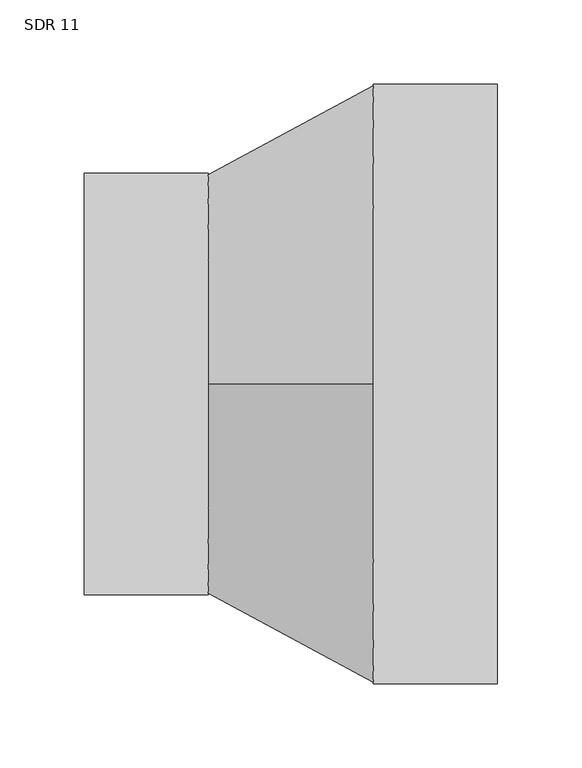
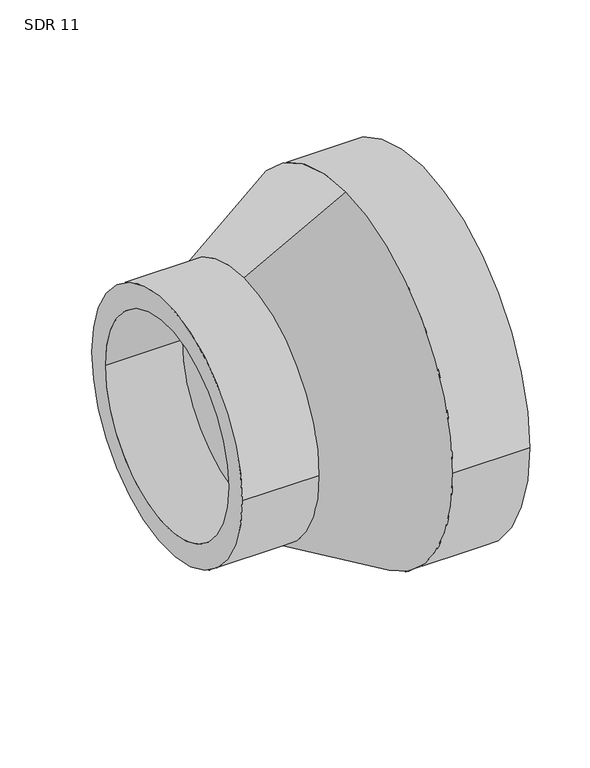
"""IFC4 building model written with IfcOpenShell, lengths in millimetres: pipe fitting geometry, Aquatherm - Reducing Coupling Combined - METRIC : SDR 11."""

from ifc_helpers import new_model, si_unit, frame, origin, place, context, project, spatial, polyline, circle_curve, source, transform, mapped, element, save
from ifc_brep_helpers import plane_surface, cylinder_surface, revolved_surface, advanced_brep


def sdr_11_0740749e(model_context):
    return source(origin(), model_context, "Body", "AdvancedBrep", [
        advanced_brep(
        [(-122.555, -124.968, 0.0), (-122.555, 124.968, 0.0), (-122.555, -102.2465455, 0.0), (-122.555, 102.2465455, 0.0), (-49.022, 102.2465455, 0.0), (-49.022, 0.0, 102.2465455), (-49.022, -102.2465455, 0.0), (-49.022, 0.0, -102.2465455), (-49.022, 124.968, 0.0), (-49.022, 0.0, -124.968), (-49.022, -124.968, 0.0), (-49.022, 0.0, 124.968), (122.555, -177.8, 0.0), (122.555, 177.8, 0.0), (122.555, -145.4727273, 0.0), (122.555, 145.4727273, 0.0), (49.022, -177.8, 0.0), (49.022, 0.0, -177.8), (49.022, 177.8, 0.0), (49.022, 0.0, 177.8), (49.022, -145.4727273, 0.0), (49.022, 0.0, 145.4727273), (49.022, 145.4727273, 0.0), (49.022, 0.0, -145.4727273)],
        [
            (0, 1, circle_curve(frame((-122.555, 0.0, 0.0), z_axis=(-1.0, 0.0, 0.0), x_axis=(0.0, 1.0, 0.0)), 124.968)),
            (1, 0, circle_curve(frame((-122.555, 0.0, 0.0), z_axis=(-1.0, 0.0, 0.0), x_axis=(0.0, 1.0, 0.0)), 124.968)),
            (2, 3, circle_curve(frame((-122.555, 0.0, 0.0), z_axis=(1.0, 0.0, 0.0), x_axis=(0.0, 1.0, 0.0)), 102.2465455)),
            (3, 2, circle_curve(frame((-122.555, 0.0, 0.0), z_axis=(1.0, 0.0, 0.0), x_axis=(0.0, 1.0, 0.0)), 102.2465455)),
            (3, 4),
            (4, 5, circle_curve(frame((-49.022, 0.0, 0.0), z_axis=(1.0, 0.0, 0.0), x_axis=(0.0, 1.0, 0.0)), 102.2465455)),
            (5, 6, circle_curve(frame((-49.022, 0.0, 0.0), z_axis=(1.0, 0.0, 0.0), x_axis=(0.0, 1.0, 0.0)), 102.2465455)),
            (6, 2),
            (6, 7, circle_curve(frame((-49.022, 0.0, 0.0), z_axis=(1.0, 0.0, 0.0), x_axis=(0.0, 1.0, 0.0)), 102.2465455)),
            (7, 4, circle_curve(frame((-49.022, 0.0, 0.0), z_axis=(1.0, 0.0, 0.0), x_axis=(0.0, 1.0, 0.0)), 102.2465455)),
            (1, 8),
            (8, 9, circle_curve(frame((-49.022, 0.0, 0.0), z_axis=(-1.0, 0.0, 0.0), x_axis=(0.0, 1.0, 0.0)), 124.968)),
            (9, 10, circle_curve(frame((-49.022, 0.0, 0.0), z_axis=(-1.0, 0.0, 0.0), x_axis=(0.0, 1.0, 0.0)), 124.968)),
            (10, 0),
            (10, 11, circle_curve(frame((-49.022, 0.0, 0.0), z_axis=(-1.0, 0.0, 0.0), x_axis=(0.0, 1.0, 0.0)), 124.968)),
            (11, 8, circle_curve(frame((-49.022, 0.0, 0.0), z_axis=(-1.0, 0.0, 0.0), x_axis=(0.0, 1.0, 0.0)), 124.968)),
            (12, 13, circle_curve(frame((122.555, 0.0, 0.0), z_axis=(1.0, 0.0, 0.0), x_axis=(0.0, 1.0, 0.0)), 177.8)),
            (13, 12, circle_curve(frame((122.555, 0.0, 0.0), z_axis=(1.0, 0.0, 0.0), x_axis=(0.0, 1.0, 0.0)), 177.8)),
            (14, 15, circle_curve(frame((122.555, 0.0, 0.0), z_axis=(-1.0, 0.0, 0.0), x_axis=(0.0, 1.0, 0.0)), 145.4727273)),
            (15, 14, circle_curve(frame((122.555, 0.0, 0.0), z_axis=(-1.0, 0.0, 0.0), x_axis=(0.0, 1.0, 0.0)), 145.4727273)),
            (12, 16),
            (16, 17, circle_curve(frame((49.022, 0.0, 0.0), z_axis=(1.0, 0.0, 0.0), x_axis=(0.0, 1.0, 0.0)), 177.8)),
            (17, 18, circle_curve(frame((49.022, 0.0, 0.0), z_axis=(1.0, 0.0, 0.0), x_axis=(0.0, 1.0, 0.0)), 177.8)),
            (18, 13),
            (18, 19, circle_curve(frame((49.022, 0.0, 0.0), z_axis=(1.0, 0.0, 0.0), x_axis=(0.0, 1.0, 0.0)), 177.8)),
            (19, 16, circle_curve(frame((49.022, 0.0, 0.0), z_axis=(1.0, 0.0, 0.0), x_axis=(0.0, 1.0, 0.0)), 177.8)),
            (14, 20),
            (20, 21, circle_curve(frame((49.022, 0.0, 0.0), z_axis=(-1.0, 0.0, 0.0), x_axis=(0.0, 1.0, 0.0)), 145.4727273)),
            (21, 22, circle_curve(frame((49.022, 0.0, 0.0), z_axis=(-1.0, 0.0, 0.0), x_axis=(0.0, 1.0, 0.0)), 145.4727273)),
            (22, 15),
            (22, 23, circle_curve(frame((49.022, 0.0, 0.0), z_axis=(-1.0, 0.0, 0.0), x_axis=(0.0, 1.0, 0.0)), 145.4727273)),
            (23, 20, circle_curve(frame((49.022, 0.0, 0.0), z_axis=(-1.0, 0.0, 0.0), x_axis=(0.0, 1.0, 0.0)), 145.4727273)),
            (11, 19),
            (17, 9),
            (21, 5),
            (7, 23),
        ],
        [
            plane_surface(frame((-122.555, 102.2465455, 0.0), z_axis=(-1.0, 0.0, 0.0), x_axis=(0.0, 0.0, 1.0))),
            revolved_surface(polyline([(-122.555, 102.2465455, 0.0), (-49.02199999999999, 102.2465455, 0.0)]), (-122.555, 0.0, 0.0), (-1.0, 0.0, 0.0)),
            cylinder_surface(frame((0.0, 0.0, 0.0), z_axis=(1.0, 0.0, 0.0), x_axis=(0.0, 1.0, 0.0)), 124.968),
            plane_surface(frame((122.555, 177.8, 0.0), z_axis=(1.0, 0.0, 0.0), x_axis=(0.0, 0.0, 1.0))),
            cylinder_surface(frame((49.022, 0.0, 0.0), z_axis=(1.0, 0.0, 0.0), x_axis=(0.0, 1.0, 0.0)), 177.8),
            revolved_surface(polyline([(49.022, 145.4727273, 0.0), (122.555, 145.4727273, 0.0)]), (0.0, 0.0, 0.0), (-1.0, 0.0, 0.0)),
            revolved_surface(polyline([(49.022, 0.0, 177.8), (-49.022, 0.0, 124.968)]), (-697.8145384, 0.0, 0.0), (-1.0, 0.0, 0.0)),
            revolved_surface(polyline([(-49.022, 0.0, 102.2465455), (49.022, 0.0, 145.4727273)]), (-697.8145384, 0.0, 0.0), (-1.0, 0.0, 0.0)),
        ],
        [
            (0, [[1, 2], [3, 4]]),
            (1, [[-4, 5, 6, 7, 8]]),
            (1, [[-3, -8, 9, 10, -5]]),
            (2, [[-2, 11, 12, 13, 14]]),
            (2, [[-1, -14, 15, 16, -11]]),
            (3, [[17, 18], [19, 20]]),
            (4, [[-17, 21, 22, 23, 24]]),
            (4, [[-18, -24, 25, 26, -21]]),
            (5, [[-19, 27, 28, 29, 30]]),
            (5, [[-20, -30, 31, 32, -27]]),
            (6, [[33, -25, -23, 34, -12, -16]]),
            (6, [[-33, -15, -13, -34, -22, -26]]),
            (7, [[35, -6, -10, 36, -31, -29]]),
            (7, [[-35, -28, -32, -36, -9, -7]]),
        ],
    ),
    ])


if __name__ == "__main__":
    model = new_model("IFC4")
    model_context = context("Model", 3, world=origin())
    ifc_project = project(units=[si_unit("LENGTHUNIT", "METRE", prefix="MILLI")], contexts=[model_context])
    site = spatial("IfcSite", under=ifc_project)
    building = spatial("IfcBuilding", under=site)
    placement = place(None, origin())
    sdr_11_shape = sdr_11_0740749e(model_context)
    element("IfcPipeFitting", 1, ObjectType="Aquatherm - Reducing Coupling Combined - METRIC : SDR 11", at=placement, inside=building, context=model_context, shape_type="MappedRepresentation", body=[
        mapped(sdr_11_shape, transform((0.0, 0.0, 0.0), x_axis=(1.0, 0.0, 0.0), y_axis=(0.0, 1.0, 0.0), z_axis=(0.0, 0.0, 1.0))),
    ])
    save(model, "model.ifc")
